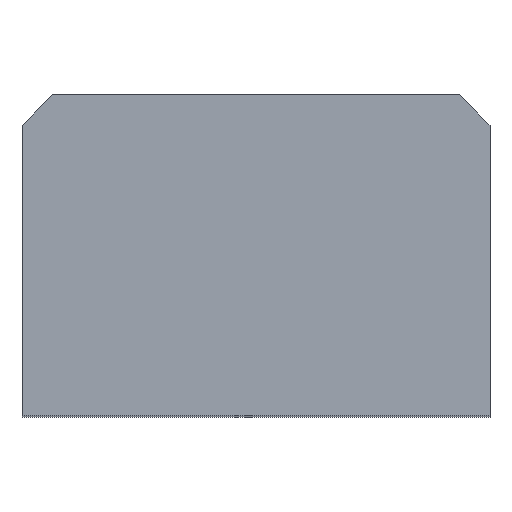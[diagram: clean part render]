
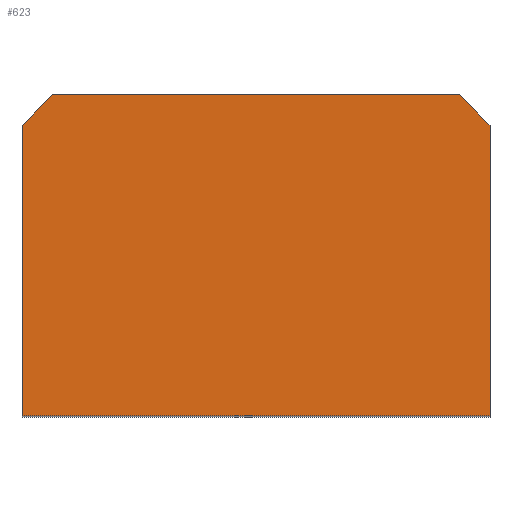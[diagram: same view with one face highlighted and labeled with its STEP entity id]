
A CAD part, top view. The second image highlights one B-rep face of the part: STEP entity #623.
In plain terms, the highlighted planar face has unit normal (0, 0, 1).
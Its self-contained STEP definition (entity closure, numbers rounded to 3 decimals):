
#51=FACE_OUTER_BOUND('',#86,.T.);
#86=EDGE_LOOP('',(#507,#508,#509,#510,#511,#512));
#115=LINE('',#900,#194);
#151=LINE('',#978,#230);
#159=LINE('',#994,#238);
#161=LINE('',#998,#240);
#162=LINE('',#1000,#241);
#163=LINE('',#1001,#242);
#194=VECTOR('',#725,10.);
#230=VECTOR('',#795,10.);
#238=VECTOR('',#809,10.);
#240=VECTOR('',#813,10.);
#241=VECTOR('',#814,10.);
#242=VECTOR('',#815,10.);
#271=VERTEX_POINT('',#897);
#272=VERTEX_POINT('',#899);
#297=VERTEX_POINT('',#976);
#302=VERTEX_POINT('',#993);
#303=VERTEX_POINT('',#997);
#304=VERTEX_POINT('',#999);
#329=EDGE_CURVE('',#271,#272,#115,.T.);
#368=EDGE_CURVE('',#271,#297,#151,.T.);
#376=EDGE_CURVE('',#302,#272,#159,.T.);
#378=EDGE_CURVE('',#303,#297,#161,.T.);
#379=EDGE_CURVE('',#303,#304,#162,.T.);
#380=EDGE_CURVE('',#304,#302,#163,.T.);
#507=ORIENTED_EDGE('',*,*,#329,.F.);
#508=ORIENTED_EDGE('',*,*,#368,.T.);
#509=ORIENTED_EDGE('',*,*,#378,.F.);
#510=ORIENTED_EDGE('',*,*,#379,.T.);
#511=ORIENTED_EDGE('',*,*,#380,.T.);
#512=ORIENTED_EDGE('',*,*,#376,.T.);
#591=PLANE('',#677);
#623=ADVANCED_FACE('',(#51),#591,.T.);
#677=AXIS2_PLACEMENT_3D('',#996,#811,#812);
#725=DIRECTION('',(0.707,-0.707,0.));
#795=DIRECTION('',(-1.,0.,0.));
#809=DIRECTION('',(0.,1.,0.));
#811=DIRECTION('center_axis',(0.,0.,1.));
#812=DIRECTION('ref_axis',(1.,0.,0.));
#813=DIRECTION('',(0.707,0.707,0.));
#814=DIRECTION('',(0.,-1.,0.));
#815=DIRECTION('',(1.,0.,0.));
#897=CARTESIAN_POINT('',(13.5,-55.,30.));
#899=CARTESIAN_POINT('',(15.5,-57.,30.));
#900=CARTESIAN_POINT('',(13.282,-54.782,30.));
#976=CARTESIAN_POINT('',(-13.5,-55.,30.));
#978=CARTESIAN_POINT('',(7.75,-55.,30.));
#993=CARTESIAN_POINT('',(15.5,-76.257,30.));
#994=CARTESIAN_POINT('',(15.5,-70.943,30.));
#996=CARTESIAN_POINT('Origin',(0.,-65.629,30.));
#997=CARTESIAN_POINT('',(-15.5,-57.,30.));
#998=CARTESIAN_POINT('',(-13.282,-54.782,30.));
#999=CARTESIAN_POINT('',(-15.5,-76.257,30.));
#1000=CARTESIAN_POINT('',(-15.5,-60.314,30.));
#1001=CARTESIAN_POINT('',(-7.75,-76.257,30.));
